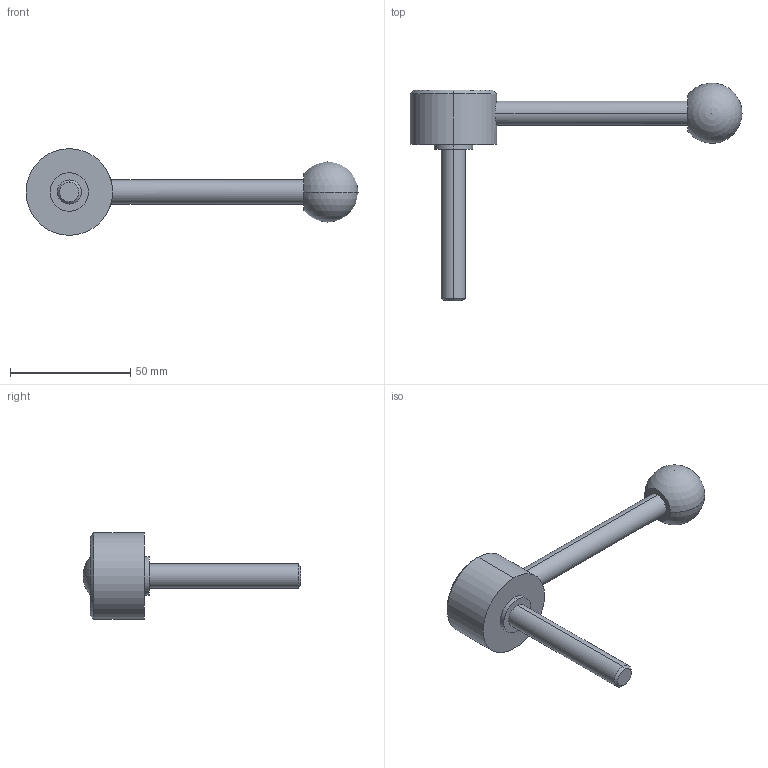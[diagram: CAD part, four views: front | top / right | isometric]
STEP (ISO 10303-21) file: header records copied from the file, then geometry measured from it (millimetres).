
FILE_DESCRIPTION (( 'STEP AP214' ), '1' );
FILE_NAME ('125.5-36-M10-63-D.step', '2020-02-18T11:30:30', ( '' ), ( '' ), 'SwSTEP 2.0', 'SolidWorks 2019', '' );
FILE_SCHEMA (( 'AUTOMOTIVE_DESIGN' ));
Length unit declared in the file: millimetre
Products named in the file (1): 125.5-36-M10-63-D
Bounding box: 138 x 90.5 x 36 mm (x, y, z)
Volume: 42420.1 mm3; surface area: 10844.9 mm2
Topology: 1 solids, 1 shells, 22 faces, 47 edges, 30 vertices
Faces by surface type: cylinder 10, plane 6, cone 4, sphere 2
Entity records: 738 total; most frequent: CARTESIAN_POINT 166, DIRECTION 112, ORIENTED_EDGE 84, AXIS2_PLACEMENT_3D 49, EDGE_CURVE 42, EDGE_LOOP 27, VERTEX_POINT 27, CIRCLE 26
